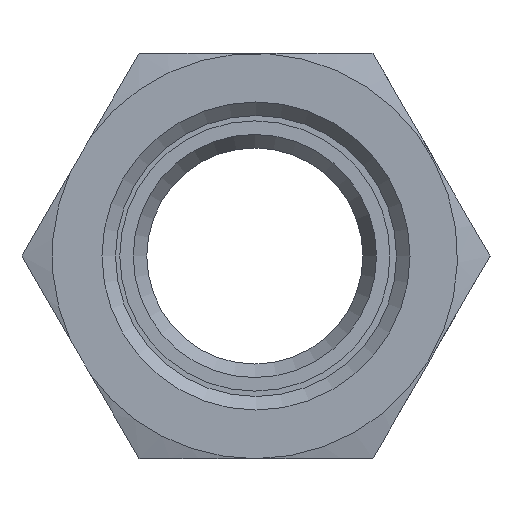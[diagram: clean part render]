
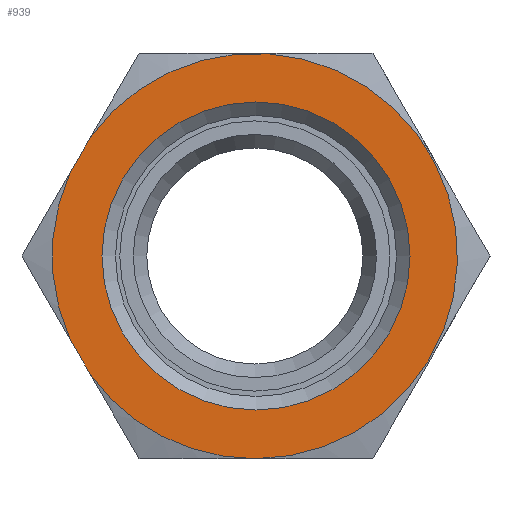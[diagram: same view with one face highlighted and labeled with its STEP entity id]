
A CAD part, left-side view. The second image highlights one B-rep face of the part: STEP entity #939.
In plain terms, the highlighted planar face has unit normal (-1, 0, 0) as drawn and (0, 0, 1) by its records, which use the part's own axes.
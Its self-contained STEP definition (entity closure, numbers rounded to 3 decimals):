
#866=CARTESIAN_POINT('',(11.4,-0.085,16.0));
#867=VERTEX_POINT('',#866);
#868=CARTESIAN_POINT('',(0.,-0.085,16.0));
#869=DIRECTION('',(0.0,0.0,1.0));
#870=DIRECTION('',(-1.0,0.0,0.0));
#871=AXIS2_PLACEMENT_3D('',#868,#869,#870);
#872=CIRCLE('',#871,11.4);
#873=EDGE_CURVE('',#867,#867,#872,.T.);
#878=CARTESIAN_POINT('',(0.,-0.085,16.0));
#879=DIRECTION('',(0.0,0.0,1.0));
#880=DIRECTION('',(1.0,0.0,0.0));
#881=AXIS2_PLACEMENT_3D('',#878,#879,#880);
#882=PLANE('',#881);
#883=CARTESIAN_POINT('',(-8.75,12.184,16.0));
#884=VERTEX_POINT('',#883);
#885=CARTESIAN_POINT('',(-15.,0.076,16.0));
#886=VERTEX_POINT('',#885);
#887=CARTESIAN_POINT('',(0.0,0.0,16.0));
#888=DIRECTION('',(0.0,0.0,1.0));
#889=DIRECTION('',(0.0,1.0,0.0));
#890=AXIS2_PLACEMENT_3D('',#887,#888,#889);
#891=CIRCLE('',#890,15.);
#892=EDGE_CURVE('',#884,#886,#891,.T.);
#893=ORIENTED_EDGE('',*,*,#892,.T.);
#894=CARTESIAN_POINT('',(-15.,-0.076,16.0));
#895=VERTEX_POINT('',#894);
#896=CARTESIAN_POINT('',(-15.,-0.076,16.0));
#897=DIRECTION('',(0.0,1.0,0.0));
#898=VECTOR('',#897,0.151);
#899=LINE('',#896,#898);
#900=EDGE_CURVE('',#895,#886,#899,.T.);
#901=ORIENTED_EDGE('',*,*,#900,.F.);
#902=CARTESIAN_POINT('',(8.748,12.185,16.0));
#903=VERTEX_POINT('',#902);
#904=CARTESIAN_POINT('',(0.0,0.0,16.0));
#905=DIRECTION('',(0.0,0.0,1.0));
#906=DIRECTION('',(0.0,1.0,0.0));
#907=AXIS2_PLACEMENT_3D('',#904,#905,#906);
#908=CIRCLE('',#907,15.);
#909=EDGE_CURVE('',#895,#903,#908,.T.);
#910=ORIENTED_EDGE('',*,*,#909,.T.);
#911=CARTESIAN_POINT('',(6.178,13.668,16.0));
#912=VERTEX_POINT('',#911);
#913=CARTESIAN_POINT('',(6.178,13.668,16.0));
#914=DIRECTION('',(0.866,-0.5,0.0));
#915=VECTOR('',#914,2.967);
#916=LINE('',#913,#915);
#917=EDGE_CURVE('',#912,#903,#916,.T.);
#918=ORIENTED_EDGE('',*,*,#917,.F.);
#919=CARTESIAN_POINT('',(-6.177,13.669,16.0));
#920=VERTEX_POINT('',#919);
#921=CARTESIAN_POINT('',(0.0,0.0,16.0));
#922=DIRECTION('',(0.0,0.0,1.0));
#923=DIRECTION('',(0.0,1.0,0.0));
#924=AXIS2_PLACEMENT_3D('',#921,#922,#923);
#925=CIRCLE('',#924,15.);
#926=EDGE_CURVE('',#912,#920,#925,.T.);
#927=ORIENTED_EDGE('',*,*,#926,.T.);
#928=CARTESIAN_POINT('',(-8.75,12.184,16.0));
#929=DIRECTION('',(0.866,0.5,0.0));
#930=VECTOR('',#929,2.971);
#931=LINE('',#928,#930);
#932=EDGE_CURVE('',#884,#920,#931,.T.);
#933=ORIENTED_EDGE('',*,*,#932,.F.);
#934=EDGE_LOOP('',(#893,#901,#910,#918,#927,#933));
#935=FACE_OUTER_BOUND('',#934,.T.);
#936=ORIENTED_EDGE('',*,*,#873,.F.);
#937=EDGE_LOOP('',(#936));
#938=FACE_BOUND('',#937,.T.);
#939=ADVANCED_FACE('',(#935,#938),#882,.T.);
